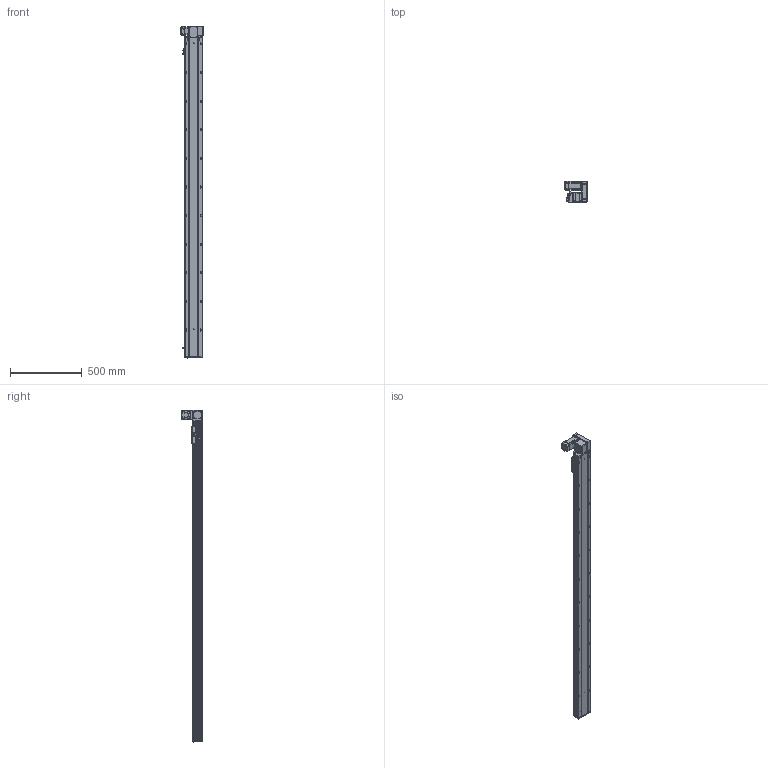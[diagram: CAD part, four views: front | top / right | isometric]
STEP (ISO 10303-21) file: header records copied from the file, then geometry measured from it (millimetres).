
FILE_DESCRIPTION (( 'STEP AP203' ), '1' );
FILE_NAME ('RY120-T-300-UR.SLDASM_2000.step', '2021-03-01T05:58:24', ( '盈信电脑' ), ( '东莞市道滘镇水果街19号' ), 'SwSTEP 2.0', 'SolidWorks 2012', '' );
FILE_SCHEMA (( 'CONFIG_CONTROL_DESIGN' ));
Products named in the file (17): RY120-T-300-UR倰第奻裔啣_2000; RY120-T-300-UR倰第菁釱_2000; RY120-T萇儂欶; RY120-T-300-UR.SLDASM_2000; RY120-T主同步轮轴承压盖; RY120-T翋肮祭謫裔啣; RY120-T蹟翐M4; 15; 滅袉蝶18-10; RY120-T萇儂假蚾啣; RY120-T翋肮祭盓傅釱; RY120-T肮祭湍揤踡輸1; RY120-T肮祭湍揤踡輸2; RY120外置感应片(140共用）; 覜茼ん672; RY120綴裔啣; RY120肮祭湍臏賑輸
Assembly tree (22 placements, depth 2):
  RY120-T-300-UR.SLDASM_2000
    RY120-T-300-UR倰第菁釱_2000
    RY120-T-300-UR倰第奻裔啣_2000
    RY120肮祭湍臏賑輸
    RY120綴裔啣
    覜茼ん672  x3
    RY120外置感应片(140共用）
    RY120-T肮祭湍揤踡輸1
    RY120-T肮祭湍揤踡輸2
    RY120-T翋肮祭盓傅釱
    RY120-T萇儂假蚾啣
    滅袉蝶18-10  x2
    RY120-T翋肮祭謫裔啣
    15
    RY120-T蹟翐M4  x4
    RY120-T萇儂欶
    RY120-T主同步轮轴承压盖
Bounding box: 155.5 x 146 x 2321 mm (x, y, z)
Volume: 5806454.7 mm3; surface area: 2218300.1 mm2
Topology: 23 solids, 23 shells, 3116 faces, 8528 edges, 5432 vertices
Faces by surface type: plane 1452, cylinder 1250, cone 325, bspline 89
Entity records: 100265 total; most frequent: CARTESIAN_POINT 26230, ORIENTED_EDGE 15344, DIRECTION 14470, EDGE_CURVE 7672, VERTEX_POINT 5019, AXIS2_PLACEMENT_3D 4919, LINE 4632, VECTOR 4632
